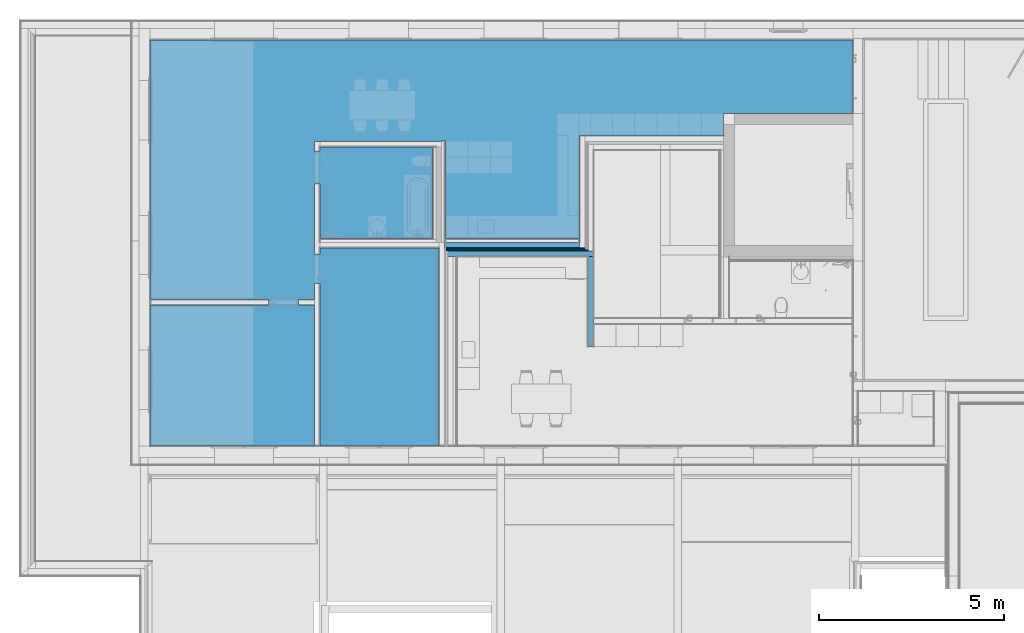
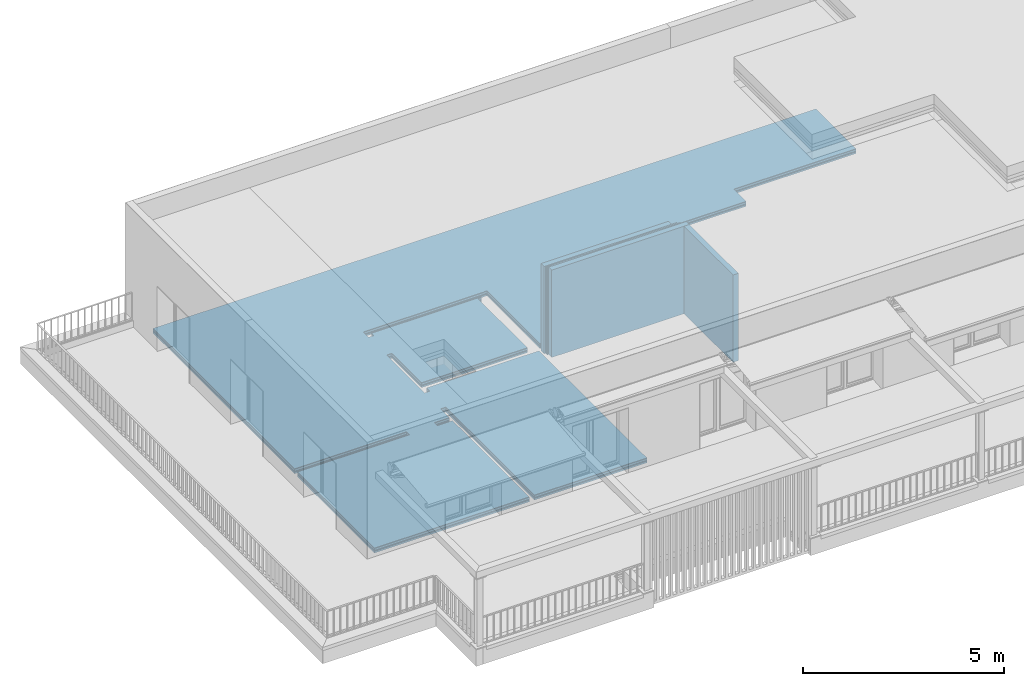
# One storey, part 9 of 36: 9 building element parts, 4 elements without a shape of their own.
"""IFC4 building model written with IfcOpenShell, lengths in millimetres."""

from ifc_helpers import new_model, entity, si_unit, converted_unit, derived_unit, direction, frame, origin_with_axes, place, context, subcontext, project, spatial, polygons, material, type_object, element, aggregate, save


model = new_model("IFC4")

# Units and contexts
model_context = context("Model", 3, precision=0.01, world=origin_with_axes(), true_north=direction((0.0, 1.0)))
body_context = subcontext(model_context, "Body", "Model", "MODEL_VIEW")
ifc_project = project(units=[si_unit("LENGTHUNIT", "METRE", prefix="MILLI"), si_unit("AREAUNIT", "SQUARE_METRE"), si_unit("VOLUMEUNIT", "CUBIC_METRE"), converted_unit("PLANEANGLEUNIT", "DEGREE", entity("IfcPlaneAngleMeasure", 0.0174532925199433), si_unit("PLANEANGLEUNIT", "RADIAN"), dimensions=[0, 0, 0, 0, 0, 0, 0]), converted_unit("TIMEUNIT", "Year", entity("IfcTimeMeasure", 31557600.0), si_unit("TIMEUNIT", "SECOND"), dimensions=[0, 0, 1, 0, 0, 0, 0]), si_unit("MASSUNIT", "GRAM", prefix="KILO"), si_unit("THERMODYNAMICTEMPERATUREUNIT", "DEGREE_CELSIUS"), si_unit("LUMINOUSINTENSITYUNIT", "LUMEN"), si_unit("ENERGYUNIT", "JOULE", prefix="MEGA"), derived_unit("THERMALCONDUCTANCEUNIT", [(si_unit("POWERUNIT", "WATT"), 1), (si_unit("LENGTHUNIT", "METRE"), -1), (si_unit("THERMODYNAMICTEMPERATUREUNIT", "KELVIN"), -1)]), derived_unit("SPECIFICHEATCAPACITYUNIT", [(si_unit("ENERGYUNIT", "JOULE"), 1), (si_unit("MASSUNIT", "GRAM", prefix="KILO"), -1), (si_unit("THERMODYNAMICTEMPERATUREUNIT", "KELVIN"), -1)]), derived_unit("MASSDENSITYUNIT", [(si_unit("MASSUNIT", "GRAM", prefix="KILO"), 1), (si_unit("VOLUMEUNIT", "CUBIC_METRE"), -1)])], contexts=[model_context])

# Site, building, storey
site_placement = place(None, origin_with_axes())
site = spatial("IfcSite", under=ifc_project, at=site_placement, Name="Gelände", CompositionType="ELEMENT")
building_placement = place(site_placement, origin_with_axes())
building = spatial("IfcBuilding", under=site, at=building_placement, Name="Gebäude", CompositionType="ELEMENT")
storey_placement = place(building_placement, frame((0.0, 0.0, 8700.0), z_axis=(0.0, 0.0, 1.0), x_axis=(1.0, 0.0, 0.0)))
storey = spatial("IfcBuildingStorey", under=building, at=storey_placement, Name="Attika", CompositionType="ELEMENT", Elevation=8700.0)

# Wall, building element parts
wall_type_1 = type_object("IfcWallType", Name="Trennwand Typ 02 - kein Putz 190", PredefinedType="NOTDEFINED")
wall_1_placement = place(storey_placement, frame((8038.997444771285, 31962.59728131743, 0.0), z_axis=(0.0, 0.0, 1.0), x_axis=(-1.0, 0.0, 0.0)))
wall_1 = element("IfcWall", 1, at=wall_1_placement, inside=storey, type_object=wall_type_1, Name="Wand-014", PredefinedType="NOTDEFINED")
ifc_material_1 = material(Name="Dämmung Innen")
building_element_part_1_placement = place(wall_1_placement, origin_with_axes())
building_element_part_1 = element("IfcBuildingElementPart", 2, at=building_element_part_1_placement, material=ifc_material_1, Name="Dämmung Innen", PredefinedType="NOTDEFINED", context=body_context, shape_type="Tessellation", body=[
    polygons([(-150.0000000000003, 190.0000000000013, 0.0), (3603.001626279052, 190.0000000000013, 0.0), (3603.001626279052, 149.9999999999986, 0.0), (-150.0000000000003, 149.9999999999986, 0.0), (-150.0000000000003, 190.0000000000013, 2649.999948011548), (3603.001626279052, 190.0000000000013, 2649.999948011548), (3603.001626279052, 149.9999999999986, 2649.999948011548), (-150.0000000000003, 149.9999999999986, 2649.999948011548)], [[[1, 2, 3, 4]], [[5, 6, 2, 1]], [[7, 3, 2, 6]], [[4, 3, 7, 8]], [[8, 5, 1, 4]], [[8, 7, 6, 5]]], closed=True),
])
ifc_material_2 = material(Name="MW, Backstein")
building_element_part_2_placement = place(wall_1_placement, origin_with_axes())
building_element_part_2 = element("IfcBuildingElementPart", 3, at=building_element_part_2_placement, material=ifc_material_2, Name="MW, Backstein", PredefinedType="NOTDEFINED", context=body_context, shape_type="Tessellation", body=[
    polygons([(3643.001626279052, 149.9999999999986, 0.0), (3643.001626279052, 0.0, 0.0), (0.0, 0.0, 0.0), (0.0, 149.9999999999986, 0.0), (3643.001626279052, 149.9999999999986, 2649.999948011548), (3643.001626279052, 0.0, 2649.999948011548), (0.0, 0.0, 2649.999948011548), (0.0, 149.9999999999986, 2649.999948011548)], [[[1, 2, 3, 4]], [[2, 1, 5, 6]], [[2, 6, 7, 3]], [[8, 4, 3, 7]], [[5, 1, 4, 8]], [[6, 5, 8, 7]]], closed=True),
])
aggregate(wall_1, [building_element_part_1, building_element_part_2])

# Covering, building element parts
covering_type = type_object("IfcCoveringType", Name="Bodenaufbau Typ 01 150", PredefinedType="NOTDEFINED")
covering_placement = place(storey_placement, frame((-3561.00418150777, 26457.59674077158, 0.0), z_axis=(0.0, 0.0, 1.0), x_axis=(1.0, 0.0, 0.0)))
covering = element("IfcCovering", 4, at=covering_placement, inside=storey, type_object=covering_type, Name="Decke-007", PredefinedType="NOTDEFINED")
ifc_material_3 = material(Name="Unterlagsboden")
building_element_part_3_placement = place(covering_placement, origin_with_axes())
building_element_part_3 = element("IfcBuildingElementPart", 5, at=building_element_part_3_placement, material=ifc_material_3, Name="Unterlagsboden", PredefinedType="NOTDEFINED", context=body_context, shape_type="Tessellation", body=[
    polygons([(7981.777730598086, 8246.466963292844, 134.9999999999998), (7981.777730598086, 5610.000540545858, 134.9999999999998), (11590.00162627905, 5610.000540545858, 134.9999999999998), (11590.00162627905, 5505.000540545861, 134.9999999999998), (11600.00162627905, 5505.000540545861, 134.9999999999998), (11600.00162627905, 8380.000540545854, 134.9999999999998), (15490.00162627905, 8380.000540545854, 134.9999999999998), (15490.00162627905, 8990.000540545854, 134.9999999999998), (18990.00162627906, 8990.000540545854, 134.9999999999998), (18990.00162627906, 10980.00054054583, 134.9999999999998), (0.0, 10980.00054054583, 134.9999999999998), (0.0, 3960.000000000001, 134.9999999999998), (3202.000000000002, 3960.000000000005, 134.9999999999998), (3202.000000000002, 3810.000000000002, 134.9999999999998), (0.0, 3810.000000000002, 134.9999999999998), (0.0, 0.0, 134.9999999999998), (4437.000000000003, 0.0, 134.9999999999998), (4437.000000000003, 3810.000000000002, 134.9999999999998), (4002.000000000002, 3810.000000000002, 134.9999999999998), (4002.000000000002, 3960.000000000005, 134.9999999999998), (4437.000000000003, 3960.000000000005, 134.9999999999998), (4437.000000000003, 4395.000540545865, 134.9999999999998), (4587.000000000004, 4395.000540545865, 134.9999999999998), (4587.000000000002, 0.0, 134.9999999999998), (7807.000000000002, 0.0, 134.9999999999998), (7807.000000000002, 5355.000540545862, 134.9999999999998), (4587.000000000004, 5355.000540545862, 134.9999999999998), (4587.000000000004, 5195.000540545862, 134.9999999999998), (4437.000000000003, 5195.000540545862, 134.9999999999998), (4437.000000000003, 7081.466963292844, 134.9999999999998), (4587.000000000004, 7081.466963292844, 134.9999999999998), (4587.000000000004, 5610.000540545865, 134.9999999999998), (7621.777730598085, 5610.000540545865, 134.9999999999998), (7621.777730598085, 8076.466963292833, 134.9999999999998), (7726.777730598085, 8076.466963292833, 134.9999999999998), (7726.777730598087, 8086.466963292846, 134.9999999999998), (4587.000000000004, 8086.466963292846, 134.9999999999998), (4587.000000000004, 7971.466963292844, 134.9999999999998), (4437.000000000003, 7971.466963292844, 134.9999999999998), (4437.000000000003, 8236.466963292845, 134.9999999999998), (4587.000000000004, 8236.466963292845, 134.9999999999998), (7876.777730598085, 8236.466963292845, 134.9999999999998), (7876.777730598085, 8246.466963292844, 134.9999999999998), (7981.777730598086, 8246.466963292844, 80.00000000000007), (7981.777730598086, 5610.000540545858, 80.00000000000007), (11590.00162627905, 5610.000540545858, 80.00000000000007), (11590.00162627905, 5505.000540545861, 80.00000000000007), (11600.00162627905, 5505.000540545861, 80.00000000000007), (11600.00162627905, 8380.000540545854, 80.00000000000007), (15490.00162627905, 8380.000540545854, 80.00000000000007), (15490.00162627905, 8990.000540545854, 80.00000000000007), (18990.00162627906, 8990.000540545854, 80.00000000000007), (18990.00162627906, 10980.00054054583, 80.00000000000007), (0.0, 10980.00054054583, 80.00000000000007), (0.0, 3960.000000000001, 80.00000000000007), (3202.000000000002, 3960.000000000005, 80.00000000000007), (3202.000000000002, 3810.000000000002, 80.00000000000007), (0.0, 3810.000000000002, 80.00000000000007), (0.0, 0.0, 80.00000000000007), (4437.000000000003, 0.0, 80.00000000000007), (4437.000000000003, 3810.000000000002, 80.00000000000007), (4002.000000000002, 3810.000000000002, 80.00000000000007), (4002.000000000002, 3960.000000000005, 80.00000000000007), (4437.000000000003, 3960.000000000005, 80.00000000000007), (4437.000000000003, 4395.000540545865, 80.00000000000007), (4587.000000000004, 4395.000540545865, 80.00000000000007), (4587.000000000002, 0.0, 80.00000000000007), (7807.000000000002, 0.0, 80.00000000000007), (7807.000000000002, 5355.000540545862, 80.00000000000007), (4587.000000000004, 5355.000540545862, 80.00000000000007), (4587.000000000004, 5195.000540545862, 80.00000000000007), (4437.000000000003, 5195.000540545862, 80.00000000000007), (4437.000000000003, 7081.466963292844, 80.00000000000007), (4587.000000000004, 7081.466963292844, 80.00000000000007), (4587.000000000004, 5610.000540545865, 80.00000000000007), (7621.777730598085, 5610.000540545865, 80.00000000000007), (7621.777730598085, 8076.466963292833, 80.00000000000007), (7726.777730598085, 8076.466963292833, 80.00000000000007), (7726.777730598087, 8086.466963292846, 80.00000000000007), (4587.000000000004, 8086.466963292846, 80.00000000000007), (4587.000000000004, 7971.466963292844, 80.00000000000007), (4437.000000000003, 7971.466963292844, 80.00000000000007), (4437.000000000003, 8236.466963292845, 80.00000000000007), (4587.000000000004, 8236.466963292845, 80.00000000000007), (7876.777730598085, 8236.466963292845, 80.00000000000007), (7876.777730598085, 8246.466963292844, 80.00000000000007)], [[[1, 2, 3, 4, 5, 6, 7, 8, 9, 10, 11, 12, 13, 14, 15, 16, 17, 18, 19, 20, 21, 22, 23, 24, 25, 26, 27, 28, 29, 30, 31, 32, 33, 34, 35, 36, 37, 38, 39, 40, 41, 42, 43]], [[2, 1, 44, 45]], [[2, 45, 46, 3]], [[3, 46, 47, 4]], [[4, 47, 48, 5]], [[48, 49, 6, 5]], [[49, 50, 7, 6]], [[50, 51, 8, 7]], [[51, 52, 9, 8]], [[52, 53, 10, 9]], [[53, 54, 11, 10]], [[55, 12, 11, 54]], [[13, 12, 55, 56]], [[14, 13, 56, 57]], [[15, 14, 57, 58]], [[15, 58, 59, 16]], [[60, 17, 16, 59]], [[61, 18, 17, 60]], [[18, 61, 62, 19]], [[20, 19, 62, 63]], [[64, 21, 20, 63]], [[22, 21, 64, 65]], [[23, 22, 65, 66]], [[24, 23, 66, 67]], [[24, 67, 68, 25]], [[69, 26, 25, 68]], [[27, 26, 69, 70]], [[27, 70, 71, 28]], [[29, 28, 71, 72]], [[30, 29, 72, 73]], [[31, 30, 73, 74]], [[75, 32, 31, 74]], [[76, 33, 32, 75]], [[34, 33, 76, 77]], [[78, 35, 34, 77]], [[35, 78, 79, 36]], [[36, 79, 80, 37]], [[37, 80, 81, 38]], [[39, 38, 81, 82]], [[40, 39, 82, 83]], [[84, 41, 40, 83]], [[85, 42, 41, 84]], [[43, 42, 85, 86]], [[44, 1, 43, 86]], [[44, 86, 85, 84, 83, 82, 81, 80, 79, 78, 77, 76, 75, 74, 73, 72, 71, 70, 69, 68, 67, 66, 65, 64, 63, 62, 61, 60, 59, 58, 57, 56, 55, 54, 53, 52, 51, 50, 49, 48, 47, 46, 45]]], closed=True),
])
ifc_material_4 = material(Name="Bodenbelag")
building_element_part_4_placement = place(covering_placement, origin_with_axes())
building_element_part_4 = element("IfcBuildingElementPart", 6, at=building_element_part_4_placement, material=ifc_material_4, Name="Bodenbelag", PredefinedType="NOTDEFINED", context=body_context, shape_type="Tessellation", body=[
    polygons([(7981.777730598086, 8246.466963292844, 150.0000000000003), (7981.777730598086, 5610.000540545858, 150.0000000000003), (11590.00162627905, 5610.000540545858, 150.0000000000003), (11590.00162627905, 5505.000540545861, 150.0000000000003), (11600.00162627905, 5505.000540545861, 150.0000000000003), (11600.00162627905, 8380.000540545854, 150.0000000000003), (15490.00162627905, 8380.000540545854, 150.0000000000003), (15490.00162627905, 8990.000540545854, 150.0000000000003), (18990.00162627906, 8990.000540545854, 150.0000000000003), (18990.00162627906, 10980.00054054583, 150.0000000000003), (0.0, 10980.00054054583, 150.0000000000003), (0.0, 3960.000000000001, 150.0000000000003), (3202.000000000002, 3960.000000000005, 150.0000000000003), (3202.000000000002, 3810.000000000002, 150.0000000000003), (0.0, 3810.000000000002, 150.0000000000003), (0.0, 0.0, 150.0000000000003), (4437.000000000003, 0.0, 150.0000000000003), (4437.000000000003, 3810.000000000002, 150.0000000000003), (4002.000000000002, 3810.000000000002, 150.0000000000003), (4002.000000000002, 3960.000000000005, 150.0000000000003), (4437.000000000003, 3960.000000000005, 150.0000000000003), (4437.000000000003, 4395.000540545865, 150.0000000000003), (4587.000000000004, 4395.000540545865, 150.0000000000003), (4587.000000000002, 0.0, 150.0000000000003), (7807.000000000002, 0.0, 150.0000000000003), (7807.000000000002, 5355.000540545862, 150.0000000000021), (4587.000000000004, 5355.000540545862, 150.0000000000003), (4587.000000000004, 5195.000540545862, 150.0000000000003), (4437.000000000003, 5195.000540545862, 150.0000000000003), (4437.000000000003, 7081.466963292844, 150.0000000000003), (4587.000000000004, 7081.466963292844, 150.0000000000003), (4587.000000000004, 5610.000540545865, 150.0000000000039), (7621.777730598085, 5610.000540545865, 150.0000000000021), (7621.777730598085, 8076.466963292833, 150.0000000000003), (7726.777730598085, 8076.466963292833, 150.0000000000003), (7726.777730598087, 8086.466963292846, 150.0000000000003), (4587.000000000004, 8086.466963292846, 150.0000000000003), (4587.000000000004, 7971.466963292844, 150.0000000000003), (4437.000000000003, 7971.466963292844, 150.0000000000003), (4437.000000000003, 8236.466963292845, 150.0000000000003), (4587.000000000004, 8236.466963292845, 150.0000000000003), (7876.777730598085, 8236.466963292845, 150.0000000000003), (7876.777730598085, 8246.466963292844, 150.0000000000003), (7981.777730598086, 8246.466963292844, 134.9999999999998), (7981.777730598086, 5610.000540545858, 134.9999999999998), (11590.00162627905, 5610.000540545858, 134.9999999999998), (11590.00162627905, 5505.000540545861, 134.9999999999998), (11600.00162627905, 5505.000540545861, 134.9999999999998), (11600.00162627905, 8380.000540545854, 134.9999999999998), (15490.00162627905, 8380.000540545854, 134.9999999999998), (15490.00162627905, 8990.000540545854, 134.9999999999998), (18990.00162627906, 8990.000540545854, 134.9999999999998), (18990.00162627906, 10980.00054054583, 134.9999999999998), (0.0, 10980.00054054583, 134.9999999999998), (0.0, 3960.000000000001, 134.9999999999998), (3202.000000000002, 3960.000000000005, 134.9999999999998), (3202.000000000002, 3810.000000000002, 134.9999999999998), (0.0, 3810.000000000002, 134.9999999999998), (0.0, 0.0, 134.9999999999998), (4437.000000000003, 0.0, 134.9999999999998), (4437.000000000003, 3810.000000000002, 134.9999999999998), (4002.000000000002, 3810.000000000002, 134.9999999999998), (4002.000000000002, 3960.000000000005, 134.9999999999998), (4437.000000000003, 3960.000000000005, 134.9999999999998), (4437.000000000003, 4395.000540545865, 134.9999999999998), (4587.000000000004, 4395.000540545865, 134.9999999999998), (4587.000000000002, 0.0, 134.9999999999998), (7807.000000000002, 0.0, 134.9999999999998), (7807.000000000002, 5355.000540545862, 134.9999999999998), (4587.000000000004, 5355.000540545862, 134.9999999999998), (4587.000000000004, 5195.000540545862, 134.9999999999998), (4437.000000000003, 5195.000540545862, 134.9999999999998), (4437.000000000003, 7081.466963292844, 134.9999999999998), (4587.000000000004, 7081.466963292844, 134.9999999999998), (4587.000000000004, 5610.000540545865, 134.9999999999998), (7621.777730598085, 5610.000540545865, 134.9999999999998), (7621.777730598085, 8076.466963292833, 134.9999999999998), (7726.777730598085, 8076.466963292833, 134.9999999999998), (7726.777730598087, 8086.466963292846, 134.9999999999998), (4587.000000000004, 8086.466963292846, 134.9999999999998), (4587.000000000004, 7971.466963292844, 134.9999999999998), (4437.000000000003, 7971.466963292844, 134.9999999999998), (4437.000000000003, 8236.466963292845, 134.9999999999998), (4587.000000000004, 8236.466963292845, 134.9999999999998), (7876.777730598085, 8236.466963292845, 134.9999999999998), (7876.777730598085, 8246.466963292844, 134.9999999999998)], [[[1, 2, 3, 4, 5, 6, 7, 8, 9, 10, 11, 12, 13, 14, 15, 16, 17, 18, 19, 20, 21, 22, 23, 24, 25, 26, 27, 28, 29, 30, 31, 32, 33, 34, 35, 36, 37, 38, 39, 40, 41, 42, 43]], [[2, 1, 44, 45]], [[2, 45, 46, 3]], [[3, 46, 47, 4]], [[4, 47, 48, 5]], [[48, 49, 6, 5]], [[49, 50, 7, 6]], [[50, 51, 8, 7]], [[51, 52, 9, 8]], [[52, 53, 10, 9]], [[53, 54, 11, 10]], [[55, 12, 11, 54]], [[13, 12, 55, 56]], [[14, 13, 56, 57]], [[15, 14, 57, 58]], [[15, 58, 59, 16]], [[60, 17, 16, 59]], [[61, 18, 17, 60]], [[18, 61, 62, 19]], [[20, 19, 62, 63]], [[64, 21, 20, 63]], [[22, 21, 64, 65]], [[23, 22, 65, 66]], [[24, 23, 66, 67]], [[24, 67, 68, 25]], [[69, 26, 25, 68]], [[27, 26, 69, 70]], [[27, 70, 71, 28]], [[29, 28, 71, 72]], [[30, 29, 72, 73]], [[31, 30, 73, 74]], [[75, 32, 31, 74]], [[76, 33, 32, 75]], [[34, 33, 76, 77]], [[78, 35, 34, 77]], [[35, 78, 79, 36]], [[36, 79, 80, 37]], [[37, 80, 81, 38]], [[39, 38, 81, 82]], [[40, 39, 82, 83]], [[84, 41, 40, 83]], [[85, 42, 41, 84]], [[43, 42, 85, 86]], [[44, 1, 43, 86]], [[44, 86, 85, 84, 83, 82, 81, 80, 79, 78, 77, 76, 75, 74, 73, 72, 71, 70, 69, 68, 67, 66, 65, 64, 63, 62, 61, 60, 59, 58, 57, 56, 55, 54, 53, 52, 51, 50, 49, 48, 47, 46, 45]]], closed=True),
])
ifc_material_5 = material(Name="Trittschalldämmung")
building_element_part_5_placement = place(covering_placement, origin_with_axes())
building_element_part_5 = element("IfcBuildingElementPart", 7, at=building_element_part_5_placement, material=ifc_material_5, Name="Trittschalldämmung", PredefinedType="NOTDEFINED", context=body_context, shape_type="Tessellation", body=[
    polygons([(7981.777730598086, 8246.466963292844, 80.00000000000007), (7981.777730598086, 5610.000540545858, 80.00000000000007), (11590.00162627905, 5610.000540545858, 80.00000000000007), (11590.00162627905, 5505.000540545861, 80.00000000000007), (11600.00162627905, 5505.000540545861, 80.00000000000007), (11600.00162627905, 8380.000540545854, 80.00000000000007), (15490.00162627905, 8380.000540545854, 80.00000000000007), (15490.00162627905, 8990.000540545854, 80.00000000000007), (18990.00162627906, 8990.000540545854, 80.00000000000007), (18990.00162627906, 10980.00054054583, 80.00000000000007), (0.0, 10980.00054054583, 80.00000000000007), (0.0, 3960.000000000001, 80.00000000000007), (3202.000000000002, 3960.000000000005, 80.00000000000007), (3202.000000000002, 3810.000000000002, 80.00000000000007), (0.0, 3810.000000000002, 80.00000000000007), (0.0, 0.0, 80.00000000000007), (4437.000000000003, 0.0, 80.00000000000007), (4437.000000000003, 3810.000000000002, 80.00000000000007), (4002.000000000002, 3810.000000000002, 80.00000000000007), (4002.000000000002, 3960.000000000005, 80.00000000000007), (4437.000000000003, 3960.000000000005, 80.00000000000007), (4437.000000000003, 4395.000540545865, 80.00000000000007), (4587.000000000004, 4395.000540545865, 80.00000000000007), (4587.000000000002, 0.0, 80.00000000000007), (7807.000000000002, 0.0, 80.00000000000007), (7807.000000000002, 5355.000540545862, 80.00000000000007), (4587.000000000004, 5355.000540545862, 80.00000000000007), (4587.000000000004, 5195.000540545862, 80.00000000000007), (4437.000000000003, 5195.000540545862, 80.00000000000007), (4437.000000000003, 7081.466963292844, 80.00000000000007), (4587.000000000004, 7081.466963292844, 80.00000000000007), (4587.000000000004, 5610.000540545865, 80.00000000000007), (7621.777730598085, 5610.000540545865, 80.00000000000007), (7621.777730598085, 8076.466963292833, 80.00000000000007), (7726.777730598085, 8076.466963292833, 80.00000000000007), (7726.777730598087, 8086.466963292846, 80.00000000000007), (4587.000000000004, 8086.466963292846, 80.00000000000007), (4587.000000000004, 7971.466963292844, 80.00000000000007), (4437.000000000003, 7971.466963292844, 80.00000000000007), (4437.000000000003, 8236.466963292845, 80.00000000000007), (4587.000000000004, 8236.466963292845, 80.00000000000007), (7876.777730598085, 8236.466963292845, 80.00000000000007), (7876.777730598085, 8246.466963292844, 80.00000000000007), (7981.777730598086, 8246.466963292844, 50.00000000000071), (7981.777730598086, 5610.000540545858, 50.00000000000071), (11590.00162627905, 5610.000540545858, 50.00000000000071), (11590.00162627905, 5505.000540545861, 50.00000000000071), (11600.00162627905, 5505.000540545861, 50.00000000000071), (11600.00162627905, 8380.000540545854, 50.00000000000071), (15490.00162627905, 8380.000540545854, 50.00000000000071), (15490.00162627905, 8990.000540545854, 50.00000000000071), (18990.00162627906, 8990.000540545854, 50.00000000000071), (18990.00162627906, 10980.00054054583, 50.00000000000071), (0.0, 10980.00054054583, 50.00000000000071), (0.0, 3960.000000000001, 50.00000000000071), (3202.000000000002, 3960.000000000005, 50.00000000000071), (3202.000000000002, 3810.000000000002, 50.00000000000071), (0.0, 3810.000000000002, 50.00000000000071), (0.0, 0.0, 50.00000000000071), (4437.000000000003, 0.0, 50.00000000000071), (4437.000000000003, 3810.000000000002, 50.00000000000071), (4002.000000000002, 3810.000000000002, 50.00000000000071), (4002.000000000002, 3960.000000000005, 50.00000000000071), (4437.000000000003, 3960.000000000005, 50.00000000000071), (4437.000000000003, 4395.000540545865, 50.00000000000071), (4587.000000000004, 4395.000540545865, 50.00000000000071), (4587.000000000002, 0.0, 50.00000000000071), (7807.000000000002, 0.0, 50.00000000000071), (7807.000000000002, 5355.000540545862, 50.00000000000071), (4587.000000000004, 5355.000540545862, 50.00000000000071), (4587.000000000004, 5195.000540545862, 50.00000000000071), (4437.000000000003, 5195.000540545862, 50.00000000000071), (4437.000000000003, 7081.466963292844, 50.00000000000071), (4587.000000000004, 7081.466963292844, 50.00000000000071), (4587.000000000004, 5610.000540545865, 50.00000000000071), (7621.777730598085, 5610.000540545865, 50.00000000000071), (7621.777730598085, 8076.466963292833, 50.00000000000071), (7726.777730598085, 8076.466963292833, 50.00000000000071), (7726.777730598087, 8086.466963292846, 50.00000000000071), (4587.000000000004, 8086.466963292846, 50.00000000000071), (4587.000000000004, 7971.466963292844, 50.00000000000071), (4437.000000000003, 7971.466963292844, 50.00000000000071), (4437.000000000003, 8236.466963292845, 50.00000000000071), (4587.000000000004, 8236.466963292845, 50.00000000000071), (7876.777730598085, 8236.466963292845, 50.00000000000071), (7876.777730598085, 8246.466963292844, 50.00000000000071)], [[[1, 2, 3, 4, 5, 6, 7, 8, 9, 10, 11, 12, 13, 14, 15, 16, 17, 18, 19, 20, 21, 22, 23, 24, 25, 26, 27, 28, 29, 30, 31, 32, 33, 34, 35, 36, 37, 38, 39, 40, 41, 42, 43]], [[2, 1, 44, 45]], [[2, 45, 46, 3]], [[3, 46, 47, 4]], [[4, 47, 48, 5]], [[48, 49, 6, 5]], [[49, 50, 7, 6]], [[50, 51, 8, 7]], [[51, 52, 9, 8]], [[52, 53, 10, 9]], [[53, 54, 11, 10]], [[55, 12, 11, 54]], [[13, 12, 55, 56]], [[14, 13, 56, 57]], [[15, 14, 57, 58]], [[15, 58, 59, 16]], [[60, 17, 16, 59]], [[61, 18, 17, 60]], [[18, 61, 62, 19]], [[20, 19, 62, 63]], [[64, 21, 20, 63]], [[22, 21, 64, 65]], [[23, 22, 65, 66]], [[24, 23, 66, 67]], [[24, 67, 68, 25]], [[69, 26, 25, 68]], [[27, 26, 69, 70]], [[27, 70, 71, 28]], [[29, 28, 71, 72]], [[30, 29, 72, 73]], [[31, 30, 73, 74]], [[75, 32, 31, 74]], [[76, 33, 32, 75]], [[34, 33, 76, 77]], [[78, 35, 34, 77]], [[35, 78, 79, 36]], [[36, 79, 80, 37]], [[37, 80, 81, 38]], [[39, 38, 81, 82]], [[40, 39, 82, 83]], [[84, 41, 40, 83]], [[85, 42, 41, 84]], [[43, 42, 85, 86]], [[44, 1, 43, 86]], [[44, 86, 85, 84, 83, 82, 81, 80, 79, 78, 77, 76, 75, 74, 73, 72, 71, 70, 69, 68, 67, 66, 65, 64, 63, 62, 61, 60, 59, 58, 57, 56, 55, 54, 53, 52, 51, 50, 49, 48, 47, 46, 45]]], closed=True),
])
building_element_part_6_placement = place(covering_placement, origin_with_axes())
building_element_part_6 = element("IfcBuildingElementPart", 8, at=building_element_part_6_placement, material=ifc_material_1, Name="Dämmung Innen", PredefinedType="NOTDEFINED", context=body_context, shape_type="Tessellation", body=[
    polygons([(7981.777730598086, 8246.466963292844, 50.00000000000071), (7981.777730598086, 5610.000540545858, 50.00000000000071), (11590.00162627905, 5610.000540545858, 50.00000000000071), (11590.00162627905, 5505.000540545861, 50.00000000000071), (11600.00162627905, 5505.000540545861, 50.00000000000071), (11600.00162627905, 8380.000540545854, 50.00000000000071), (15490.00162627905, 8380.000540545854, 50.00000000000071), (15490.00162627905, 8990.000540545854, 50.00000000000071), (18990.00162627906, 8990.000540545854, 50.00000000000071), (18990.00162627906, 10980.00054054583, 50.00000000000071), (0.0, 10980.00054054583, 50.00000000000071), (0.0, 3960.000000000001, 50.00000000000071), (3202.000000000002, 3960.000000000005, 50.00000000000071), (3202.000000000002, 3810.000000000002, 50.00000000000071), (0.0, 3810.000000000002, 50.00000000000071), (0.0, 0.0, 50.00000000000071), (4437.000000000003, 0.0, 50.00000000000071), (4437.000000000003, 3810.000000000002, 50.00000000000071), (4002.000000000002, 3810.000000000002, 50.00000000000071), (4002.000000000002, 3960.000000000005, 50.00000000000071), (4437.000000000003, 3960.000000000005, 50.00000000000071), (4437.000000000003, 4395.000540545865, 50.00000000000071), (4587.000000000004, 4395.000540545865, 50.00000000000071), (4587.000000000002, 0.0, 50.00000000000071), (7807.000000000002, 0.0, 50.00000000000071), (7807.000000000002, 5355.000540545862, 50.00000000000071), (4587.000000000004, 5355.000540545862, 50.00000000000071), (4587.000000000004, 5195.000540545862, 50.00000000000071), (4437.000000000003, 5195.000540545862, 50.00000000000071), (4437.000000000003, 7081.466963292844, 50.00000000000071), (4587.000000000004, 7081.466963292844, 50.00000000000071), (4587.000000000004, 5610.000540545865, 50.00000000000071), (7621.777730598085, 5610.000540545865, 50.00000000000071), (7621.777730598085, 8076.466963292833, 50.00000000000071), (7726.777730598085, 8076.466963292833, 50.00000000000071), (7726.777730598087, 8086.466963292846, 50.00000000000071), (4587.000000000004, 8086.466963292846, 50.00000000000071), (4587.000000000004, 7971.466963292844, 50.00000000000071), (4437.000000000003, 7971.466963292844, 50.00000000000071), (4437.000000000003, 8236.466963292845, 50.00000000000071), (4587.000000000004, 8236.466963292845, 50.00000000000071), (7876.777730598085, 8236.466963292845, 50.00000000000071), (7876.777730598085, 8246.466963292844, 50.00000000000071), (7981.777730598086, 8246.466963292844, 0.0), (7981.777730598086, 5610.000540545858, 0.0), (11590.00162627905, 5610.000540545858, 0.0), (11590.00162627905, 5505.000540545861, 0.0), (11600.00162627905, 5505.000540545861, 0.0), (11600.00162627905, 8380.000540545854, 0.0), (15490.00162627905, 8380.000540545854, 0.0), (15490.00162627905, 8990.000540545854, 0.0), (18990.00162627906, 8990.000540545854, 0.0), (18990.00162627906, 10980.00054054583, 0.0), (0.0, 10980.00054054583, 0.0), (0.0, 3960.000000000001, 0.0), (3202.000000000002, 3960.000000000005, 0.0), (3202.000000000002, 3810.000000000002, 0.0), (0.0, 3810.000000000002, 0.0), (0.0, 0.0, 0.0), (4437.000000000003, 0.0, 0.0), (4437.000000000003, 3810.000000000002, 0.0), (4002.000000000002, 3810.000000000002, 0.0), (4002.000000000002, 3960.000000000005, 0.0), (4437.000000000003, 3960.000000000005, 0.0), (4437.000000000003, 4395.000540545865, 0.0), (4587.000000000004, 4395.000540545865, 0.0), (4587.000000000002, 0.0, 0.0), (7807.000000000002, 0.0, 0.0), (7807.000000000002, 5355.000540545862, 0.0), (4587.000000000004, 5355.000540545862, 0.0), (4587.000000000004, 5195.000540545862, 0.0), (4437.000000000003, 5195.000540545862, 0.0), (4437.000000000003, 7081.466963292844, 0.0), (4587.000000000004, 7081.466963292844, 0.0), (4587.000000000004, 5610.000540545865, 0.0), (7621.777730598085, 5610.000540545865, 0.0), (7621.777730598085, 8076.466963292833, 0.0), (7726.777730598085, 8076.466963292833, 0.0), (7726.777730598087, 8086.466963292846, 0.0), (4587.000000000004, 8086.466963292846, 0.0), (4587.000000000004, 7971.466963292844, 0.0), (4437.000000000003, 7971.466963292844, 0.0), (4437.000000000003, 8236.466963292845, 0.0), (4587.000000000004, 8236.466963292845, 0.0), (7876.777730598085, 8236.466963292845, 0.0), (7876.777730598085, 8246.466963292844, 0.0)], [[[1, 2, 3, 4, 5, 6, 7, 8, 9, 10, 11, 12, 13, 14, 15, 16, 17, 18, 19, 20, 21, 22, 23, 24, 25, 26, 27, 28, 29, 30, 31, 32, 33, 34, 35, 36, 37, 38, 39, 40, 41, 42, 43]], [[2, 1, 44, 45]], [[2, 45, 46, 3]], [[3, 46, 47, 4]], [[4, 47, 48, 5]], [[5, 48, 49, 6]], [[6, 49, 50, 7]], [[7, 50, 51, 8]], [[8, 51, 52, 9]], [[9, 52, 53, 10]], [[10, 53, 54, 11]], [[55, 12, 11, 54]], [[13, 12, 55, 56]], [[14, 13, 56, 57]], [[15, 14, 57, 58]], [[15, 58, 59, 16]], [[60, 17, 16, 59]], [[61, 18, 17, 60]], [[18, 61, 62, 19]], [[20, 19, 62, 63]], [[64, 21, 20, 63]], [[22, 21, 64, 65]], [[23, 22, 65, 66]], [[24, 23, 66, 67]], [[24, 67, 68, 25]], [[69, 26, 25, 68]], [[27, 26, 69, 70]], [[27, 70, 71, 28]], [[29, 28, 71, 72]], [[30, 29, 72, 73]], [[31, 30, 73, 74]], [[75, 32, 31, 74]], [[76, 33, 32, 75]], [[34, 33, 76, 77]], [[78, 35, 34, 77]], [[35, 78, 79, 36]], [[36, 79, 80, 37]], [[37, 80, 81, 38]], [[39, 38, 81, 82]], [[40, 39, 82, 83]], [[84, 41, 40, 83]], [[85, 42, 41, 84]], [[43, 42, 85, 86]], [[44, 1, 43, 86]], [[44, 86, 85, 84, 83, 82, 81, 80, 79, 78, 77, 76, 75, 74, 73, 72, 71, 70, 69, 68, 67, 66, 65, 64, 63, 62, 61, 60, 59, 58, 57, 56, 55, 54, 53, 52, 51, 50, 49, 48, 47, 46, 45]]], closed=True),
])
aggregate(covering, [building_element_part_3, building_element_part_4, building_element_part_5, building_element_part_6])

# Wall, building element parts
wall_type_2 = type_object("IfcWallType", Name="Trennwand Typ 03 - verputzt 200", PredefinedType="NOTDEFINED")
wall_2_placement = place(storey_placement, frame((4625.995818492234, 31582.59728131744, 0.0), z_axis=(0.0, 0.0, 1.0), x_axis=(1.0, 0.0, 0.0)))
wall_2 = element("IfcWall", 9, at=wall_2_placement, inside=storey, type_object=wall_type_2, Name="Wand-015", PredefinedType="NOTDEFINED")
building_element_part_7_placement = place(wall_2_placement, origin_with_axes())
building_element_part_7 = element("IfcBuildingElementPart", 10, at=building_element_part_7_placement, material=ifc_material_2, Name="MW, Backstein", PredefinedType="NOTDEFINED", context=body_context, shape_type="Tessellation", body=[
    polygons([(3793.001626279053, 149.9999999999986, 0.0), (3793.001626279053, 0.0, 0.0), (-150.0000000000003, 0.0, 0.0), (-150.0000000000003, 149.9999999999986, 0.0), (3793.001626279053, 150.0000000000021, 2649.999948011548), (3793.001626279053, 0.0, 2649.999948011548), (-150.0000000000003, 0.0, 2649.999948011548), (-150.0000000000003, 149.9999999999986, 2649.999948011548)], [[[1, 2, 3, 4]], [[2, 1, 5, 6]], [[2, 6, 7, 3]], [[8, 4, 3, 7]], [[5, 1, 4, 8]], [[6, 5, 8, 7]]], closed=True),
])
building_element_part_8_placement = place(wall_2_placement, origin_with_axes())
building_element_part_8 = element("IfcBuildingElementPart", 11, at=building_element_part_8_placement, material=ifc_material_1, Name="Dämmung Innen", PredefinedType="NOTDEFINED", context=body_context, shape_type="Tessellation", body=[
    polygons([(3643.001626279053, 149.9999999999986, 0.0), (-190.0000000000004, 149.9999999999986, 0.0), (-190.0000000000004, 190.0000000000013, 0.0), (3643.001626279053, 190.0000000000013, 0.0), (3643.001626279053, 150.0000000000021, 2649.999948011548), (-190.0000000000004, 149.9999999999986, 2649.999948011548), (-190.0000000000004, 190.0000000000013, 2649.999948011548), (3643.001626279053, 190.0000000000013, 2649.999948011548)], [[[1, 2, 3, 4]], [[5, 6, 2, 1]], [[3, 2, 6, 7]], [[4, 3, 7, 8]], [[4, 8, 5, 1]], [[8, 7, 6, 5]]], closed=True),
])
aggregate(wall_2, [building_element_part_7, building_element_part_8])

# Wall, building element part
wall_type_3 = type_object("IfcWallType", Name="Innenwand Typ 05 170", PredefinedType="NOTDEFINED")
wall_3_placement = place(storey_placement, frame((8418.997444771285, 31582.59728131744, 0.0), z_axis=(0.0, 0.0, 1.0), x_axis=(0.0, -1.0, 0.0)))
wall_3 = element("IfcWall", 12, at=wall_3_placement, inside=storey, type_object=wall_type_3, Name="Wand-014", PredefinedType="NOTDEFINED")
building_element_part_9_placement = place(wall_3_placement, origin_with_axes())
building_element_part_9 = element("IfcBuildingElementPart", 13, at=building_element_part_9_placement, material=ifc_material_2, Name="MW, Backstein", PredefinedType="NOTDEFINED", context=body_context, shape_type="Tessellation", body=[
    polygons([(0.0, 0.0, 0.0), (0.0, 0.0, 2649.999948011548), (2432.999999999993, 0.0, 2649.999948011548), (2432.999999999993, 0.0, 0.0), (0.0, -149.9999999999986, 2649.999948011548), (0.0, -149.9999999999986, 0.0), (2432.999999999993, -150.0000000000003, 2649.999948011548), (2432.999999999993, -150.0000000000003, 0.0)], [[[1, 2, 3, 4]], [[5, 2, 1, 6]], [[2, 5, 7, 3]], [[4, 3, 7, 8]], [[6, 1, 4, 8]], [[5, 6, 8, 7]]], closed=True),
])
aggregate(wall_3, [building_element_part_9])

save(model, "model.ifc")
